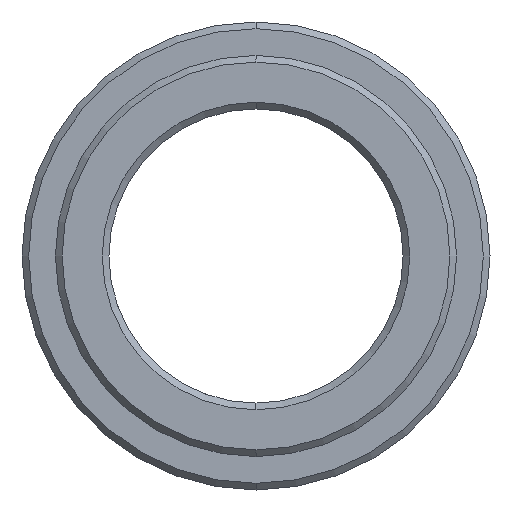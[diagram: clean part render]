
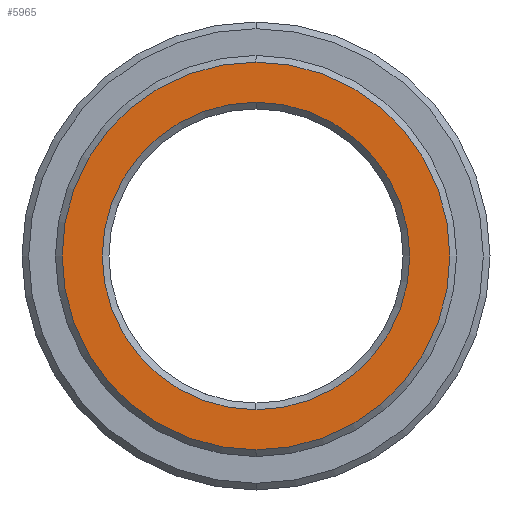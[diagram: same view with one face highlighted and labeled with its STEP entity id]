
A CAD part, left-side view. The second image highlights one B-rep face of the part: STEP entity #5965.
In plain terms, the highlighted planar face has unit normal (-1, 0, 0).
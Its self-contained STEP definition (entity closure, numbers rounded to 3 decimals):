
#3834=CARTESIAN_POINT('',(-8.,0.,
0.));
#3835=DIRECTION('',(1.,0.,0.));
#3836=DIRECTION('',(0.,0.,-1.));
#3837=AXIS2_PLACEMENT_3D('',#3834,#3835,#3836);
#3839=CARTESIAN_POINT('',(-8.,0.,0.));
#3840=DIRECTION('',(1.,0.,0.));
#3841=DIRECTION('',(0.,0.,1.));
#3842=AXIS2_PLACEMENT_3D('',#3839,#3840,#3841);
#3844=CARTESIAN_POINT('',(-8.,0.,0.));
#3845=DIRECTION('',(1.,0.,0.));
#3846=DIRECTION('',(0.,0.,-1.));
#3847=AXIS2_PLACEMENT_3D('',#3844,#3845,#3846);
#3849=CARTESIAN_POINT('',(-8.,0.,
0.));
#3850=DIRECTION('',(1.,0.,0.));
#3851=DIRECTION('',(0.,0.,1.));
#3852=AXIS2_PLACEMENT_3D('',#3849,#3850,#3851);
#4122=CARTESIAN_POINT('',(-8.,0.,-11.5));
#4123=CARTESIAN_POINT('',(-8.,0.,11.5));
#4124=VERTEX_POINT('',#4122);
#4125=VERTEX_POINT('',#4123);
#4130=CARTESIAN_POINT('',(-8.,0.,-14.5));
#4131=CARTESIAN_POINT('',(-8.,0.,14.5));
#4132=VERTEX_POINT('',#4130);
#4133=VERTEX_POINT('',#4131);
#5950=CARTESIAN_POINT('',(-8.,0.,0.));
#5951=DIRECTION('',(1.,0.,0.));
#5952=DIRECTION('',(0.,0.,1.));
#5953=AXIS2_PLACEMENT_3D('',#5950,#5951,#5952);
#5954=PLANE('',#5953);
#5955=ORIENTED_EDGE('',*,*,#5932,.T.);
#5956=ORIENTED_EDGE('',*,*,#5917,.T.);
#5957=EDGE_LOOP('',(#5955,#5956));
#5958=FACE_OUTER_BOUND('',#5957,.F.);
#5960=ORIENTED_EDGE('',*,*,#5959,.F.);
#5962=ORIENTED_EDGE('',*,*,#5961,.F.);
#5963=EDGE_LOOP('',(#5960,#5962));
#5964=FACE_BOUND('',#5963,.F.);
#5965=ADVANCED_FACE('',(#5958,#5964),#5954,.F.);
#3838=CIRCLE('',#3837,14.5);
#3843=CIRCLE('',#3842,14.5);
#3848=CIRCLE('',#3847,11.5);
#3853=CIRCLE('',#3852,11.5);
#5917=EDGE_CURVE('',#4133,#4132,#3843,.T.);
#5932=EDGE_CURVE('',#4132,#4133,#3838,.T.);
#5959=EDGE_CURVE('',#4124,#4125,#3848,.T.);
#5961=EDGE_CURVE('',#4125,#4124,#3853,.T.);
